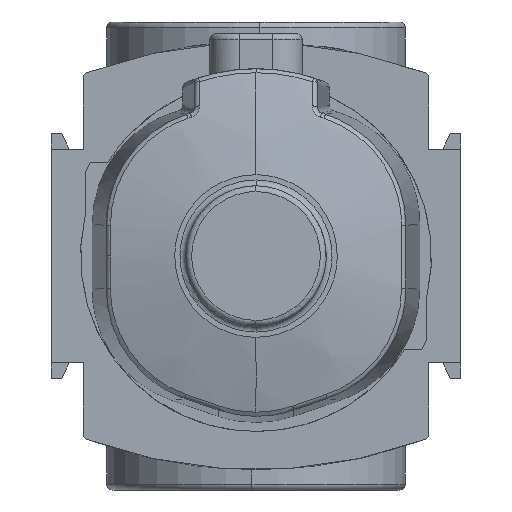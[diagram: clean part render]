
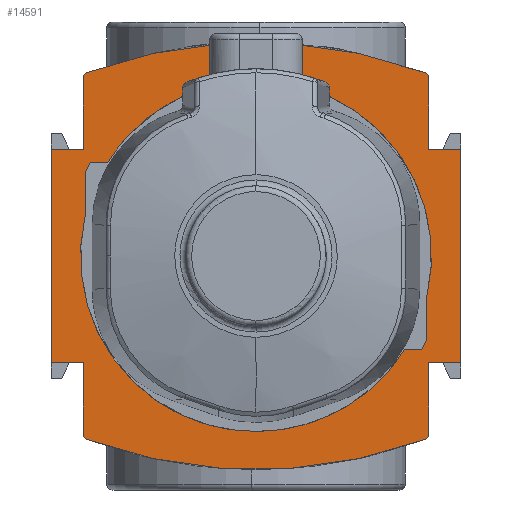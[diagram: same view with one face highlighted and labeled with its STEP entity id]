
A CAD part, front view. The second image highlights one B-rep face of the part: STEP entity #14591.
In plain terms, the highlighted planar face has unit normal (0, -1, 0).
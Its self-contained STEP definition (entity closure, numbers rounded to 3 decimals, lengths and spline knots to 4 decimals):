
#9679=FACE_BOUND('',#17999,.T.);
#10371=LINE('',#45937,#12113);
#10372=LINE('',#45939,#12114);
#10373=LINE('',#45941,#12115);
#10374=LINE('',#45943,#12116);
#10375=LINE('',#45945,#12117);
#10376=LINE('',#45953,#12118);
#10377=LINE('',#45955,#12119);
#10378=LINE('',#45957,#12120);
#10379=LINE('',#45959,#12121);
#10380=LINE('',#45961,#12122);
#10381=LINE('',#45964,#12123);
#10382=LINE('',#45971,#12124);
#10383=LINE('',#45975,#12125);
#10384=LINE('',#45979,#12126);
#12113=VECTOR('',#34891,1.);
#12114=VECTOR('',#34892,1.);
#12115=VECTOR('',#34893,1.);
#12116=VECTOR('',#34894,1.);
#12117=VECTOR('',#34895,1.);
#12118=VECTOR('',#34902,1.);
#12119=VECTOR('',#34903,1.);
#12120=VECTOR('',#34904,1.);
#12121=VECTOR('',#34905,1.);
#12122=VECTOR('',#34906,1.);
#12123=VECTOR('',#34909,1.);
#12124=VECTOR('',#34914,1.);
#12125=VECTOR('',#34917,1.);
#12126=VECTOR('',#34920,1.);
#13733=CIRCLE('',#32510,3.3071);
#13734=CIRCLE('',#32511,0.0394);
#13735=CIRCLE('',#32512,0.0394);
#13736=CIRCLE('',#32513,3.3071);
#13737=CIRCLE('',#32514,0.0394);
#13738=CIRCLE('',#32515,0.0394);
#13739=CIRCLE('',#32516,1.1811);
#13740=CIRCLE('',#32517,1.1811);
#13741=CIRCLE('',#32518,1.2795);
#13742=CIRCLE('',#32519,1.1811);
#13743=CIRCLE('',#32520,1.2795);
#14591=ADVANCED_FACE('',(#16625,#9679),#15605,.T.);
#15605=PLANE('',#32521);
#16625=FACE_OUTER_BOUND('',#17998,.T.);
#17998=EDGE_LOOP('',(#20872,#20873,#20874,#20875,#20876,#20877,#20878,#20879,
#20880,#20881,#20882,#20883,#20884,#20885,#20886,#20887));
#17999=EDGE_LOOP('',(#20888,#20889,#20890,#20891,#20892,#20893,#20894,#20895,
#20896));
#20872=ORIENTED_EDGE('',*,*,#28724,.F.);
#20873=ORIENTED_EDGE('',*,*,#28725,.T.);
#20874=ORIENTED_EDGE('',*,*,#28726,.F.);
#20875=ORIENTED_EDGE('',*,*,#28727,.T.);
#20876=ORIENTED_EDGE('',*,*,#28728,.T.);
#20877=ORIENTED_EDGE('',*,*,#28729,.T.);
#20878=ORIENTED_EDGE('',*,*,#28730,.F.);
#20879=ORIENTED_EDGE('',*,*,#28731,.T.);
#20880=ORIENTED_EDGE('',*,*,#28732,.F.);
#20881=ORIENTED_EDGE('',*,*,#28733,.T.);
#20882=ORIENTED_EDGE('',*,*,#28734,.F.);
#20883=ORIENTED_EDGE('',*,*,#28735,.F.);
#20884=ORIENTED_EDGE('',*,*,#28736,.F.);
#20885=ORIENTED_EDGE('',*,*,#28737,.F.);
#20886=ORIENTED_EDGE('',*,*,#28738,.F.);
#20887=ORIENTED_EDGE('',*,*,#28739,.T.);
#20888=ORIENTED_EDGE('',*,*,#28740,.T.);
#20889=ORIENTED_EDGE('',*,*,#28741,.T.);
#20890=ORIENTED_EDGE('',*,*,#28742,.T.);
#20891=ORIENTED_EDGE('',*,*,#28743,.T.);
#20892=ORIENTED_EDGE('',*,*,#28744,.T.);
#20893=ORIENTED_EDGE('',*,*,#28745,.T.);
#20894=ORIENTED_EDGE('',*,*,#28746,.T.);
#20895=ORIENTED_EDGE('',*,*,#28747,.T.);
#20896=ORIENTED_EDGE('',*,*,#28748,.T.);
#26253=VERTEX_POINT('',#45933);
#26254=VERTEX_POINT('',#45934);
#26255=VERTEX_POINT('',#45936);
#26256=VERTEX_POINT('',#45938);
#26257=VERTEX_POINT('',#45940);
#26258=VERTEX_POINT('',#45942);
#26259=VERTEX_POINT('',#45944);
#26260=VERTEX_POINT('',#45946);
#26261=VERTEX_POINT('',#45948);
#26262=VERTEX_POINT('',#45950);
#26263=VERTEX_POINT('',#45952);
#26264=VERTEX_POINT('',#45954);
#26265=VERTEX_POINT('',#45956);
#26266=VERTEX_POINT('',#45958);
#26267=VERTEX_POINT('',#45960);
#26268=VERTEX_POINT('',#45962);
#26269=VERTEX_POINT('',#45965);
#26270=VERTEX_POINT('',#45966);
#26271=VERTEX_POINT('',#45968);
#26272=VERTEX_POINT('',#45970);
#26273=VERTEX_POINT('',#45972);
#26274=VERTEX_POINT('',#45974);
#26275=VERTEX_POINT('',#45976);
#26276=VERTEX_POINT('',#45978);
#26277=VERTEX_POINT('',#45980);
#28724=EDGE_CURVE('',#26253,#26254,#13733,.T.);
#28725=EDGE_CURVE('',#26253,#26255,#13734,.T.);
#28726=EDGE_CURVE('',#26256,#26255,#10371,.T.);
#28727=EDGE_CURVE('',#26256,#26257,#10372,.T.);
#28728=EDGE_CURVE('',#26257,#26258,#10373,.T.);
#28729=EDGE_CURVE('',#26258,#26259,#10374,.T.);
#28730=EDGE_CURVE('',#26260,#26259,#10375,.T.);
#28731=EDGE_CURVE('',#26260,#26261,#13735,.T.);
#28732=EDGE_CURVE('',#26262,#26261,#13736,.T.);
#28733=EDGE_CURVE('',#26262,#26263,#13737,.T.);
#28734=EDGE_CURVE('',#26264,#26263,#10376,.T.);
#28735=EDGE_CURVE('',#26265,#26264,#10377,.T.);
#28736=EDGE_CURVE('',#26266,#26265,#10378,.T.);
#28737=EDGE_CURVE('',#26267,#26266,#10379,.T.);
#28738=EDGE_CURVE('',#26268,#26267,#10380,.T.);
#28739=EDGE_CURVE('',#26268,#26254,#13738,.T.);
#28740=EDGE_CURVE('',#26269,#26270,#10381,.T.);
#28741=EDGE_CURVE('',#26270,#26271,#13739,.T.);
#28742=EDGE_CURVE('',#26271,#26272,#13740,.T.);
#28743=EDGE_CURVE('',#26272,#26273,#10382,.T.);
#28744=EDGE_CURVE('',#26273,#26274,#13741,.T.);
#28745=EDGE_CURVE('',#26274,#26275,#10383,.T.);
#28746=EDGE_CURVE('',#26275,#26276,#13742,.T.);
#28747=EDGE_CURVE('',#26276,#26277,#10384,.T.);
#28748=EDGE_CURVE('',#26277,#26269,#13743,.T.);
#32510=AXIS2_PLACEMENT_3D('',#45932,#34887,#34888);
#32511=AXIS2_PLACEMENT_3D('',#45935,#34889,#34890);
#32512=AXIS2_PLACEMENT_3D('',#45947,#34896,#34897);
#32513=AXIS2_PLACEMENT_3D('',#45949,#34898,#34899);
#32514=AXIS2_PLACEMENT_3D('',#45951,#34900,#34901);
#32515=AXIS2_PLACEMENT_3D('',#45963,#34907,#34908);
#32516=AXIS2_PLACEMENT_3D('',#45967,#34910,#34911);
#32517=AXIS2_PLACEMENT_3D('',#45969,#34912,#34913);
#32518=AXIS2_PLACEMENT_3D('',#45973,#34915,#34916);
#32519=AXIS2_PLACEMENT_3D('',#45977,#34918,#34919);
#32520=AXIS2_PLACEMENT_3D('',#45981,#34921,#34922);
#32521=AXIS2_PLACEMENT_3D('',#45982,#34923,#34924);
#34887=DIRECTION('',(0.,1.,0.));
#34888=DIRECTION('',(0.,0.,1.));
#34889=DIRECTION('',(0.,-1.,0.));
#34890=DIRECTION('',(0.,0.,-1.));
#34891=DIRECTION('',(0.,0.,-1.));
#34892=DIRECTION('',(1.,0.,0.));
#34893=DIRECTION('',(0.,0.,1.));
#34894=DIRECTION('',(-1.,0.,0.));
#34895=DIRECTION('',(0.,0.,-1.));
#34896=DIRECTION('',(0.,-1.,0.));
#34897=DIRECTION('',(0.,0.,-1.));
#34898=DIRECTION('',(0.,1.,0.));
#34899=DIRECTION('',(0.,0.,-1.));
#34900=DIRECTION('',(0.,-1.,0.));
#34901=DIRECTION('',(0.,0.,-1.));
#34902=DIRECTION('',(0.,0.,1.));
#34903=DIRECTION('',(1.,0.,0.));
#34904=DIRECTION('',(0.,0.,1.));
#34905=DIRECTION('',(-1.,0.,0.));
#34906=DIRECTION('',(0.,0.,1.));
#34907=DIRECTION('',(0.,-1.,0.));
#34908=DIRECTION('',(0.,0.,-1.));
#34909=DIRECTION('',(1.,0.,0.));
#34910=DIRECTION('',(0.,1.,0.));
#34911=DIRECTION('',(0.,0.,-1.));
#34912=DIRECTION('',(0.,1.,0.));
#34913=DIRECTION('',(0.,0.,-1.));
#34914=DIRECTION('',(0.,0.,-1.));
#34915=DIRECTION('',(0.,1.,0.));
#34916=DIRECTION('',(0.,0.,-1.));
#34917=DIRECTION('',(-1.,0.,0.));
#34918=DIRECTION('',(0.,1.,0.));
#34919=DIRECTION('',(0.,0.,-1.));
#34920=DIRECTION('',(0.,0.,1.));
#34921=DIRECTION('',(0.,1.,0.));
#34922=DIRECTION('',(0.,0.,-1.));
#34923=DIRECTION('',(0.,-1.,0.));
#34924=DIRECTION('',(0.,0.,-1.));
#45932=CARTESIAN_POINT('',(0.,0.,1.8701));
#45933=CARTESIAN_POINT('',(1.1356,0.,-1.2359));
#45934=CARTESIAN_POINT('',(-1.1356,0.,-1.2359));
#45935=CARTESIAN_POINT('',(1.122,0.,-1.199));
#45936=CARTESIAN_POINT('',(1.1614,0.,-1.199));
#45937=CARTESIAN_POINT('',(1.1614,0.,-1.2264));
#45938=CARTESIAN_POINT('',(1.1614,0.,-0.7185));
#45939=CARTESIAN_POINT('',(1.1614,0.,-0.7185));
#45940=CARTESIAN_POINT('',(1.378,0.,-0.7185));
#45941=CARTESIAN_POINT('',(1.378,0.,0.7185));
#45942=CARTESIAN_POINT('',(1.378,0.,0.7185));
#45943=CARTESIAN_POINT('',(1.1614,0.,0.7185));
#45944=CARTESIAN_POINT('',(1.1614,0.,0.7185));
#45945=CARTESIAN_POINT('',(1.1614,0.,-1.2264));
#45946=CARTESIAN_POINT('',(1.1614,0.,1.199));
#45947=CARTESIAN_POINT('',(1.122,0.,1.199));
#45948=CARTESIAN_POINT('',(1.1356,0.,1.2359));
#45949=CARTESIAN_POINT('',(0.,0.,-1.8701));
#45950=CARTESIAN_POINT('',(-1.1356,0.,1.2359));
#45951=CARTESIAN_POINT('',(-1.122,0.,1.199));
#45952=CARTESIAN_POINT('',(-1.1614,0.,1.199));
#45953=CARTESIAN_POINT('',(-1.1614,0.,-1.2264));
#45954=CARTESIAN_POINT('',(-1.1614,0.,0.7185));
#45955=CARTESIAN_POINT('',(-1.1614,0.,0.7185));
#45956=CARTESIAN_POINT('',(-1.378,0.,0.7185));
#45957=CARTESIAN_POINT('',(-1.378,0.,0.7185));
#45958=CARTESIAN_POINT('',(-1.378,0.,-0.7185));
#45959=CARTESIAN_POINT('',(-1.1614,0.,-0.7185));
#45960=CARTESIAN_POINT('',(-1.1614,0.,-0.7185));
#45961=CARTESIAN_POINT('',(-1.1614,0.,-1.2264));
#45962=CARTESIAN_POINT('',(-1.1614,0.,-1.199));
#45963=CARTESIAN_POINT('',(-1.122,0.,-1.199));
#45964=CARTESIAN_POINT('',(0.,0.,0.6299));
#45965=CARTESIAN_POINT('',(-1.1137,0.,0.6299));
#45966=CARTESIAN_POINT('',(-0.9991,0.,0.6299));
#45967=CARTESIAN_POINT('',(0.,0.,0.));
#45968=CARTESIAN_POINT('',(0.,0.,1.1811));
#45969=CARTESIAN_POINT('',(0.,0.,0.));
#45970=CARTESIAN_POINT('',(1.1496,0.,-0.2708));
#45971=CARTESIAN_POINT('',(1.1496,0.,-1.8701));
#45972=CARTESIAN_POINT('',(1.1496,0.,-0.5617));
#45973=CARTESIAN_POINT('',(0.,0.,0.));
#45974=CARTESIAN_POINT('',(1.1137,0.,-0.6299));
#45975=CARTESIAN_POINT('',(0.,0.,-0.6299));
#45976=CARTESIAN_POINT('',(0.9991,0.,-0.6299));
#45977=CARTESIAN_POINT('',(0.,0.,0.));
#45978=CARTESIAN_POINT('',(-1.1496,0.,0.2708));
#45979=CARTESIAN_POINT('',(-1.1496,0.,-1.8701));
#45980=CARTESIAN_POINT('',(-1.1496,0.,0.5617));
#45981=CARTESIAN_POINT('',(0.,0.,0.));
#45982=CARTESIAN_POINT('',(0.,0.,-1.8701));
